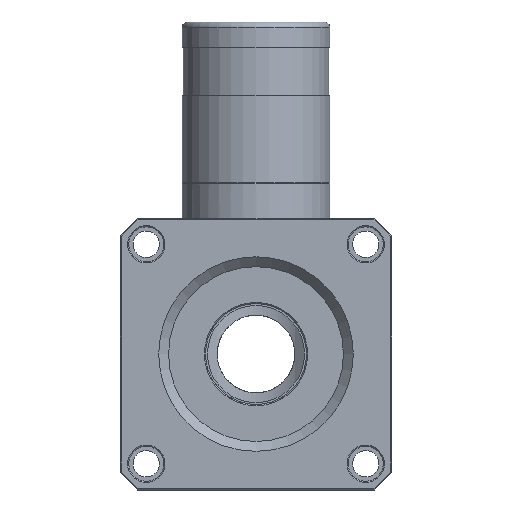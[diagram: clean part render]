
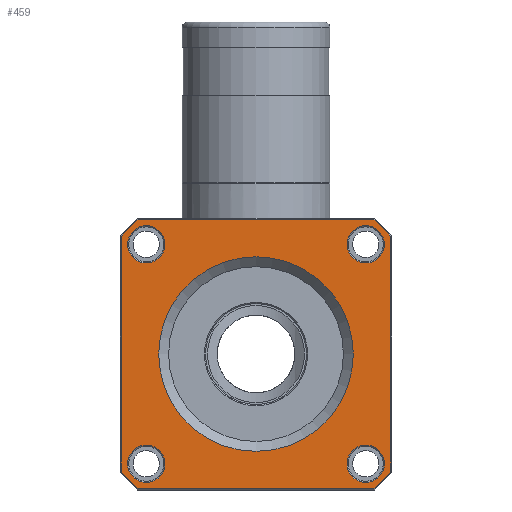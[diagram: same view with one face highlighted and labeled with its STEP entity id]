
A CAD part, front view. The second image highlights one B-rep face of the part: STEP entity #459.
In plain terms, the highlighted planar face has unit normal (0, -1, 0) as drawn and (0, 0, -1) by its records, which use the part's own axes.
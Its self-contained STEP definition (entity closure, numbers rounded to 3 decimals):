
#459=ADVANCED_FACE('',(#779,#780,#781,#782,#783,#784),#785,.F.);
#779=FACE_OUTER_BOUND('',#1190,.T.);
#780=FACE_BOUND('',#1191,.T.);
#781=FACE_BOUND('',#1192,.T.);
#782=FACE_BOUND('',#1193,.T.);
#783=FACE_BOUND('',#1194,.T.);
#784=FACE_BOUND('',#1195,.T.);
#785=PLANE('',#1196);
#1190=EDGE_LOOP('',(#1830,#1831,#1832,#1833,#1834,#1835,#1836,#1837));
#1191=EDGE_LOOP('',(#1838));
#1192=EDGE_LOOP('',(#1839));
#1193=EDGE_LOOP('',(#1840));
#1194=EDGE_LOOP('',(#1841));
#1195=EDGE_LOOP('',(#1842));
#1196=AXIS2_PLACEMENT_3D('',#1843,#1844,#1845);
#1830=ORIENTED_EDGE('',*,*,#2427,.T.);
#1831=ORIENTED_EDGE('',*,*,#2421,.T.);
#1832=ORIENTED_EDGE('',*,*,#2424,.T.);
#1833=ORIENTED_EDGE('',*,*,#2430,.T.);
#1834=ORIENTED_EDGE('',*,*,#2438,.T.);
#1835=ORIENTED_EDGE('',*,*,#2444,.T.);
#1836=ORIENTED_EDGE('',*,*,#2441,.T.);
#1837=ORIENTED_EDGE('',*,*,#2435,.T.);
#1838=ORIENTED_EDGE('',*,*,#2454,.T.);
#1839=ORIENTED_EDGE('',*,*,#2455,.T.);
#1840=ORIENTED_EDGE('',*,*,#2456,.T.);
#1841=ORIENTED_EDGE('',*,*,#2457,.T.);
#1842=ORIENTED_EDGE('',*,*,#2458,.T.);
#1843=CARTESIAN_POINT('',(0.0,0.0,0.0));
#1844=DIRECTION('',(0.0,0.0,1.0));
#1845=DIRECTION('',(1.0,0.0,0.0));
#2421=EDGE_CURVE('',#2808,#2811,#2813,.T.);
#2424=EDGE_CURVE('',#2811,#2815,#2817,.T.);
#2427=EDGE_CURVE('',#2819,#2808,#2821,.T.);
#2430=EDGE_CURVE('',#2815,#2823,#2825,.T.);
#2435=EDGE_CURVE('',#2828,#2819,#2831,.T.);
#2438=EDGE_CURVE('',#2823,#2833,#2835,.T.);
#2441=EDGE_CURVE('',#2837,#2828,#2839,.T.);
#2444=EDGE_CURVE('',#2833,#2837,#2842,.T.);
#2454=EDGE_CURVE('',#2857,#2857,#2858,.T.);
#2455=EDGE_CURVE('',#2859,#2859,#2860,.T.);
#2456=EDGE_CURVE('',#2861,#2861,#2862,.T.);
#2457=EDGE_CURVE('',#2863,#2863,#2864,.T.);
#2458=EDGE_CURVE('',#2865,#2865,#2866,.T.);
#2808=VERTEX_POINT('',#3450);
#2811=VERTEX_POINT('',#3455);
#2813=LINE('',#3458,#3459);
#2815=VERTEX_POINT('',#3461);
#2817=LINE('',#3464,#3465);
#2819=VERTEX_POINT('',#3467);
#2821=LINE('',#3470,#3471);
#2823=VERTEX_POINT('',#3473);
#2825=LINE('',#3476,#3477);
#2828=VERTEX_POINT('',#3481);
#2831=LINE('',#3486,#3487);
#2833=VERTEX_POINT('',#3489);
#2835=LINE('',#3492,#3493);
#2837=VERTEX_POINT('',#3495);
#2839=LINE('',#3498,#3499);
#2842=LINE('',#3503,#3504);
#2857=VERTEX_POINT('',#3619);
#2858=CIRCLE('',#3620,25.05);
#2859=VERTEX_POINT('',#3621);
#2860=CIRCLE('',#3622,4.8);
#2861=VERTEX_POINT('',#3623);
#2862=CIRCLE('',#3624,4.8);
#2863=VERTEX_POINT('',#3625);
#2864=CIRCLE('',#3626,4.8);
#2865=VERTEX_POINT('',#3627);
#2866=CIRCLE('',#3628,4.8);
#3450=CARTESIAN_POINT('',(-30.376,-34.7,0.0));
#3455=CARTESIAN_POINT('',(-34.7,-30.376,0.0));
#3458=CARTESIAN_POINT('',(-32.538,-32.538,0.0));
#3459=VECTOR('',#4235,1.0);
#3461=CARTESIAN_POINT('',(-34.7,30.376,0.0));
#3464=CARTESIAN_POINT('',(-34.7,30.5,0.0));
#3465=VECTOR('',#4237,1.0);
#3467=CARTESIAN_POINT('',(30.376,-34.7,0.0));
#3470=CARTESIAN_POINT('',(-30.5,-34.7,0.0));
#3471=VECTOR('',#4239,1.0);
#3473=CARTESIAN_POINT('',(-30.376,34.7,0.0));
#3476=CARTESIAN_POINT('',(-32.538,32.538,0.0));
#3477=VECTOR('',#4241,1.0);
#3481=CARTESIAN_POINT('',(34.7,-30.376,0.0));
#3486=CARTESIAN_POINT('',(32.538,-32.538,0.0));
#3487=VECTOR('',#4245,1.0);
#3489=CARTESIAN_POINT('',(30.376,34.7,0.0));
#3492=CARTESIAN_POINT('',(30.5,34.7,0.0));
#3493=VECTOR('',#4247,1.0);
#3495=CARTESIAN_POINT('',(34.7,30.376,0.0));
#3498=CARTESIAN_POINT('',(34.7,-30.5,0.0));
#3499=VECTOR('',#4249,1.0);
#3503=CARTESIAN_POINT('',(32.538,32.538,0.0));
#3504=VECTOR('',#4251,1.0);
#3619=CARTESIAN_POINT('',(25.05,0.0,0.0));
#3620=AXIS2_PLACEMENT_3D('',#4264,#4265,#4266);
#3621=CARTESIAN_POINT('',(33.05,-28.25,0.0));
#3622=AXIS2_PLACEMENT_3D('',#4267,#4268,#4269);
#3623=CARTESIAN_POINT('',(33.05,28.25,0.0));
#3624=AXIS2_PLACEMENT_3D('',#4270,#4271,#4272);
#3625=CARTESIAN_POINT('',(-23.45,28.25,0.0));
#3626=AXIS2_PLACEMENT_3D('',#4273,#4274,#4275);
#3627=CARTESIAN_POINT('',(-23.45,-28.25,0.0));
#3628=AXIS2_PLACEMENT_3D('',#4276,#4277,#4278);
#4235=DIRECTION('',(-0.707,0.707,0.0));
#4237=DIRECTION('',(0.,1.0,0.0));
#4239=DIRECTION('',(-1.0,0.0,0.0));
#4241=DIRECTION('',(0.707,0.707,0.0));
#4245=DIRECTION('',(-0.707,-0.707,0.0));
#4247=DIRECTION('',(1.0,0.,0.0));
#4249=DIRECTION('',(0.,-1.0,0.0));
#4251=DIRECTION('',(0.707,-0.707,0.0));
#4264=CARTESIAN_POINT('',(0.0,0.0,0.0));
#4265=DIRECTION('',(0.0,0.0,1.0));
#4266=DIRECTION('',(1.0,0.0,0.0));
#4267=CARTESIAN_POINT('',(28.25,-28.25,0.0));
#4268=DIRECTION('',(0.0,0.0,1.0));
#4269=DIRECTION('',(1.0,0.0,0.0));
#4270=CARTESIAN_POINT('',(28.25,28.25,0.0));
#4271=DIRECTION('',(0.0,0.0,1.0));
#4272=DIRECTION('',(1.0,0.0,0.0));
#4273=CARTESIAN_POINT('',(-28.25,28.25,0.0));
#4274=DIRECTION('',(0.0,0.0,1.0));
#4275=DIRECTION('',(1.0,0.0,0.0));
#4276=CARTESIAN_POINT('',(-28.25,-28.25,0.0));
#4277=DIRECTION('',(0.0,0.0,1.0));
#4278=DIRECTION('',(1.0,0.0,0.0));
